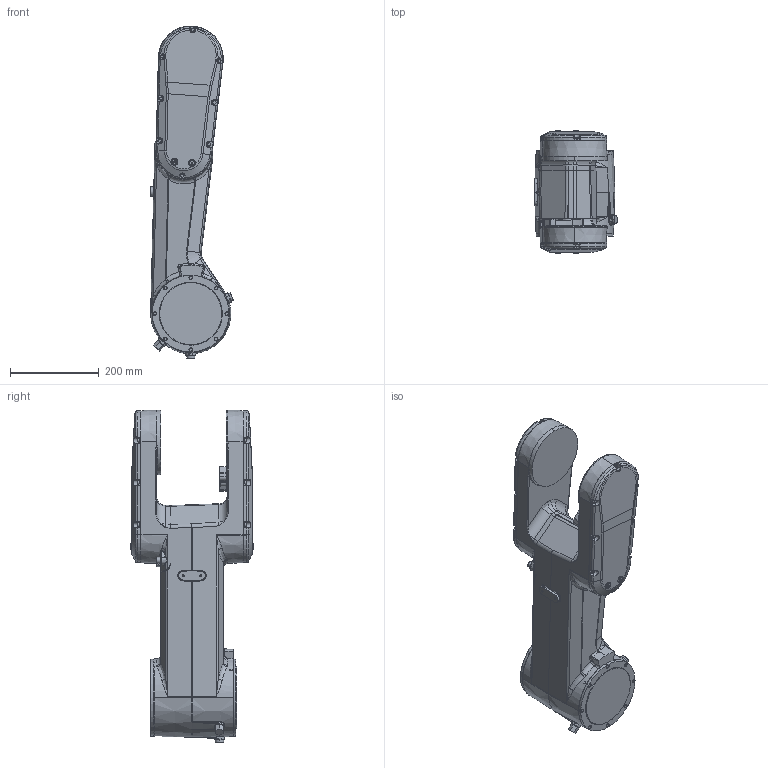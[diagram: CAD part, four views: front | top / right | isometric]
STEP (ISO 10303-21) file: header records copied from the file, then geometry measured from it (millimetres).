
FILE_DESCRIPTION (( 'STEP AP214' ), '1' );
FILE_NAME ('IRB1300 Type A_10Kg-1150-IP40IP67CR-STD_OC_00_link2.STEP', '2026-05-19T12:44:47', ( '' ), ( '' ), 'SwSTEP 2.0', 'SolidWorks 2024', '' );
FILE_SCHEMA (( 'AUTOMOTIVE_DESIGN' ));
Length unit declared in the file: millimetre
Products named in the file (1): IRB1300 Type A_10Kg-1150-IP40IP67CR-STD_OC_00_link2
Bounding box: 186.51 x 278 x 748.21 mm (x, y, z)
Volume: 15443113.6 mm3; surface area: 560250.8 mm2
Topology: 1 solids, 1 shells, 1374 faces, 3276 edges, 1953 vertices
Faces by surface type: cylinder 426, bspline 391, plane 263, cone 178, torus 114, sphere 2
Entity records: 60390 total; most frequent: CARTESIAN_POINT 31448, ORIENTED_EDGE 6482, DIRECTION 5492, EDGE_CURVE 3241, AXIS2_PLACEMENT_3D 2256, VERTEX_POINT 1953, EDGE_LOOP 1458, FACE_OUTER_BOUND 1374
